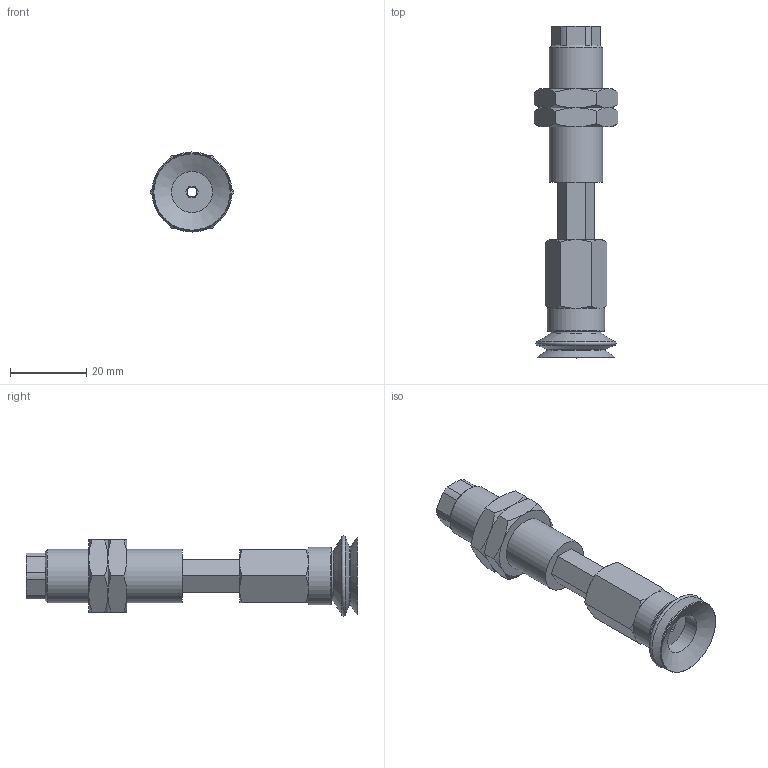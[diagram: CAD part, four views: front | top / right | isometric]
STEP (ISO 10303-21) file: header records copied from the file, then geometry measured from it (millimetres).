
FILE_DESCRIPTION(('STEP AP203'),'1');
FILE_NAME('.stp','2025-08-27T06:56:35',(' '),(' '),'Spatial InterOp 3D',' ',' ');
FILE_SCHEMA(('CONFIG_CONTROL_DESIGN'));
Length unit declared in the file: millimetre
Products named in the file (7): BNABPJTH-20-15-※; ADAPTER; NAPBTH-20-15-MBODY; Adapter-20-NAPJ; NAPJH-20-15-NUT; NAPJTH-20-15-FBODY; BPJG-20-※
Assembly tree (7 placements, depth 2):
  BNABPJTH-20-15-※
    ADAPTER
    NAPBTH-20-15-MBODY
    Adapter-20-NAPJ
    NAPJH-20-15-NUT  x2
    NAPJTH-20-15-FBODY
    BPJG-20-※
Bounding box: 21.94 x 87 x 21 mm (x, y, z)
Volume: 13208.4 mm3; surface area: 10575.8 mm2
Topology: 7 solids, 7 shells, 137 faces, 302 edges, 185 vertices
Faces by surface type: plane 62, cone 49, cylinder 19, torus 7
Full cylindrical faces by diameter (mm): 2.5 x1, 3 x2, 4.134 x2, 4.6 x1, 5 x1, 10.8 x1, 11 x1, 13.188 x2, 14 x1, 15 x1
Entity records: 3524 total; most frequent: CARTESIAN_POINT 824, DIRECTION 490, ORIENTED_EDGE 432, EDGE_CURVE 216, AXIS2_PLACEMENT_3D 200, EDGE_LOOP 162, VERTEX_POINT 150, FACE_OUTER_BOUND 133
